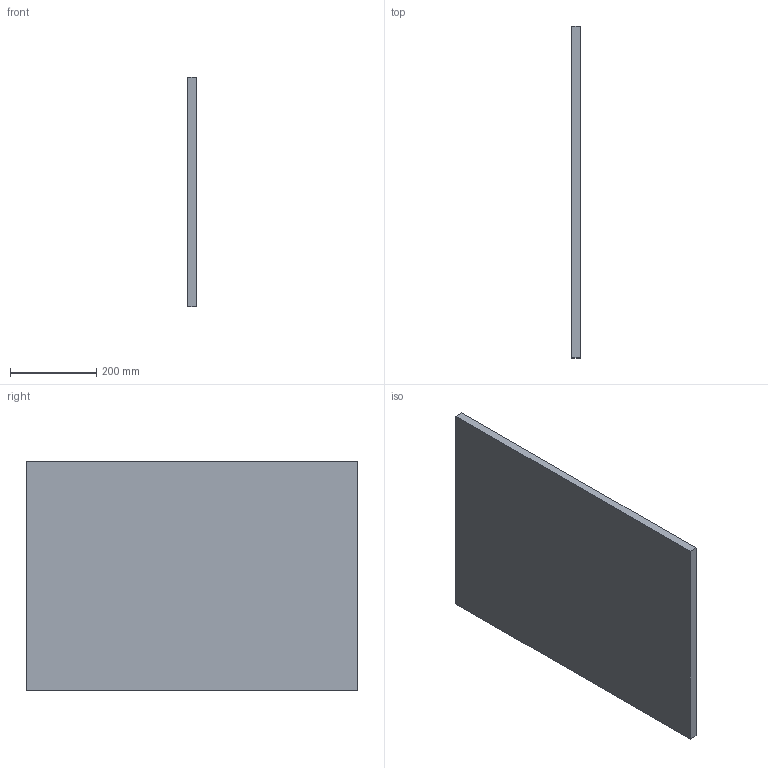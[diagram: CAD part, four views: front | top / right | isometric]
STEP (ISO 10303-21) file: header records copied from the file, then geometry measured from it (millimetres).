
FILE_DESCRIPTION((''),'2;1');
FILE_NAME('C5_22D_LEFT_SIDE','2021-06-04T',('rpiatt1a'),('Middle Atlantic Products'),'CREO PARAMETRIC BY PTC INC, 2018360','CREO PARAMETRIC BY PTC INC, 2018360','');
FILE_SCHEMA(('CONFIG_CONTROL_DESIGN'));
Length unit declared in the file: inch
Products named in the file (1): C5_22D_LEFT_SIDE
Bounding box: 19.05 x 767.79 x 532.51 mm (x, y, z)
Volume: 7772676.9 mm3; surface area: 874005.3 mm2
Topology: 1 solids, 1 shells, 64 faces, 132 edges, 88 vertices
Faces by surface type: cylinder 36, plane 28
Entity records: 1768 total; most frequent: DIRECTION 332, CARTESIAN_POINT 284, ORIENTED_EDGE 264, AXIS2_PLACEMENT_3D 136, EDGE_CURVE 132, VERTEX_POINT 88, EDGE_LOOP 82, CIRCLE 72
